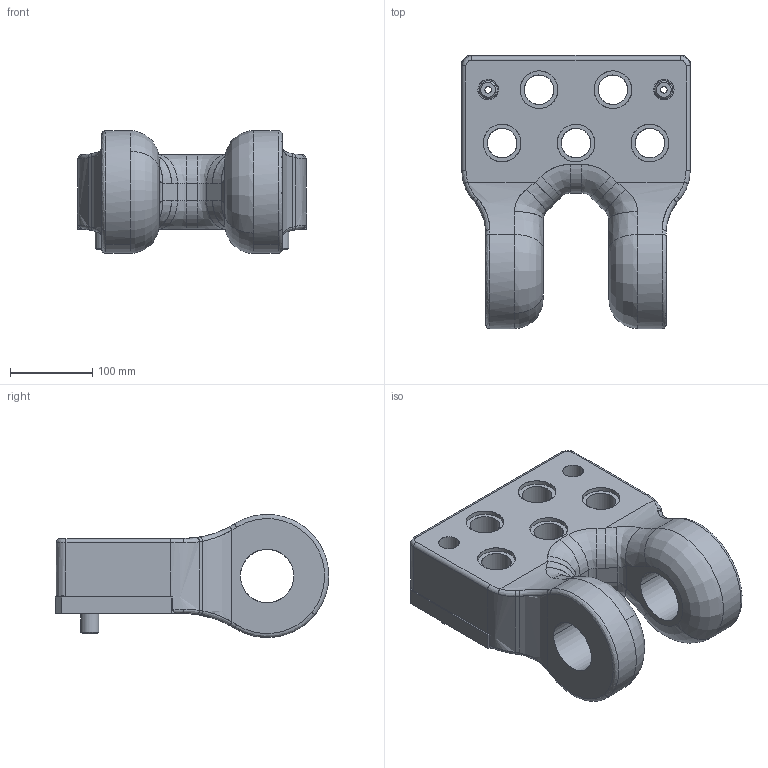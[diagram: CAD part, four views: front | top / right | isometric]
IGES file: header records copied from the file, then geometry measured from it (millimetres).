
Start section: START RECORD GO HERE.
Global section: file name: 395S-12500.igs; native system: DASSAULT SYSTEMES CATIA V5 R20 - www.3ds.com; preprocessor: CATIA Version 5 Release 20 ; author: Utente; organization: NB04-ASUS; date: 20200410.074715; units: millimetre
Bounding box: 280 x 332.98 x 149.66 mm (x, y, z)
Surface area: 357443.5 mm2 (no closed solid volume)
Topology: 0 solids, 0 shells, 164 faces, 781 edges, 785 vertices
Faces by surface type: revolution 105, plane 39, bspline 20
